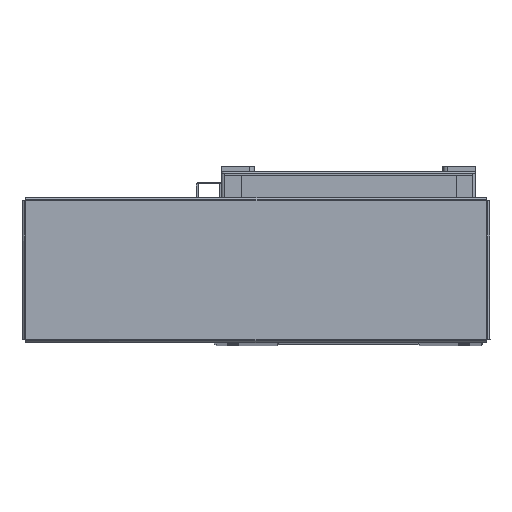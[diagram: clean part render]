
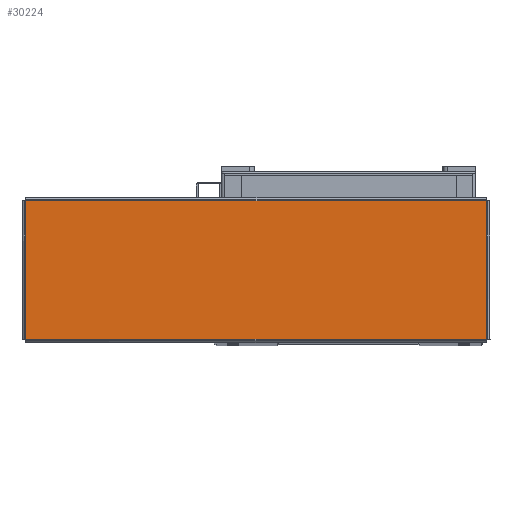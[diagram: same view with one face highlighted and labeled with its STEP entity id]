
A CAD part, top view. The second image highlights one B-rep face of the part: STEP entity #30224.
In plain terms, the highlighted planar face has unit normal (0, 0, 1) as drawn and (0, -1, 0) by its records, which use the part's own axes.
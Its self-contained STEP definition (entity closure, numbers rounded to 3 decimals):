
#3567 = EDGE_LOOP ( 'NONE', ( #7822, #7856, #7889, #7845 ) ) ;
#4533 = VERTEX_POINT ( 'NONE', #12225 ) ;
#4572 = VERTEX_POINT ( 'NONE', #12291 ) ;
#4588 = VERTEX_POINT ( 'NONE', #12299 ) ;
#4595 = VERTEX_POINT ( 'NONE', #12280 ) ;
#7822 = ORIENTED_EDGE ( 'NONE', *, *, #14476, .T. ) ;
#7845 = ORIENTED_EDGE ( 'NONE', *, *, #14387, .T. ) ;
#7856 = ORIENTED_EDGE ( 'NONE', *, *, #14445, .T. ) ;
#7889 = ORIENTED_EDGE ( 'NONE', *, *, #14361, .T. ) ;
#9816 = CARTESIAN_POINT ( 'NONE',  ( -139.263, -1.5, 41.793 ) ) ;
#9828 = DIRECTION ( 'NONE',  ( 0., 0., -1. ) ) ;
#10003 = CARTESIAN_POINT ( 'NONE',  ( -139.293, -1.5, -41.763 ) ) ;
#10036 = DIRECTION ( 'NONE',  ( 1., 0., 0. ) ) ;
#10212 = DIRECTION ( 'NONE',  ( -1., 0., 0. ) ) ;
#10246 = CARTESIAN_POINT ( 'NONE',  ( 139.293, -1.5, 41.763 ) ) ;
#10311 = CARTESIAN_POINT ( 'NONE',  ( 139.263, -1.5, -41.793 ) ) ;
#10344 = DIRECTION ( 'NONE',  ( 0., 0., 1. ) ) ;
#12225 = CARTESIAN_POINT ( 'NONE',  ( 139.263, -1.5, 41.763 ) ) ;
#12280 = CARTESIAN_POINT ( 'NONE',  ( 139.263, -1.5, -41.763 ) ) ;
#12291 = CARTESIAN_POINT ( 'NONE',  ( -139.263, -1.5, -41.763 ) ) ;
#12299 = CARTESIAN_POINT ( 'NONE',  ( -139.263, -1.5, 41.763 ) ) ;
#14361 = EDGE_CURVE ( 'NONE', #4588, #4572, #26625, .T. ) ;
#14387 = EDGE_CURVE ( 'NONE', #4572, #4595, #26798, .T. ) ;
#14445 = EDGE_CURVE ( 'NONE', #4533, #4588, #26922, .T. ) ;
#14476 = EDGE_CURVE ( 'NONE', #4595, #4533, #27085, .T. ) ;
#23807 = DIRECTION ( 'NONE',  ( 0., 0., 1. ) ) ;
#23810 = DIRECTION ( 'NONE',  ( 0., 1., 0. ) ) ;
#23816 = CARTESIAN_POINT ( 'NONE',  ( 0., -1.5, 0. ) ) ;
#23830 = PLANE ( 'NONE',  #49131 ) ;
#26625 = LINE ( 'NONE', #9816, #26700 ) ;
#26700 = VECTOR ( 'NONE', #9828, 1000. ) ;
#26798 = LINE ( 'NONE', #10003, #26833 ) ;
#26833 = VECTOR ( 'NONE', #10036, 1000. ) ;
#26922 = LINE ( 'NONE', #10246, #26939 ) ;
#26939 = VECTOR ( 'NONE', #10212, 1000. ) ;
#27062 = VECTOR ( 'NONE', #10344, 1000. ) ;
#27085 = LINE ( 'NONE', #10311, #27062 ) ;
#30224 = ADVANCED_FACE ( 'NONE', ( #45670 ), #23830, .F. ) ;
#45670 = FACE_OUTER_BOUND ( 'NONE', #3567, .T. ) ;
#49131 = AXIS2_PLACEMENT_3D ( 'NONE', #23816, #23810, #23807 ) ;
